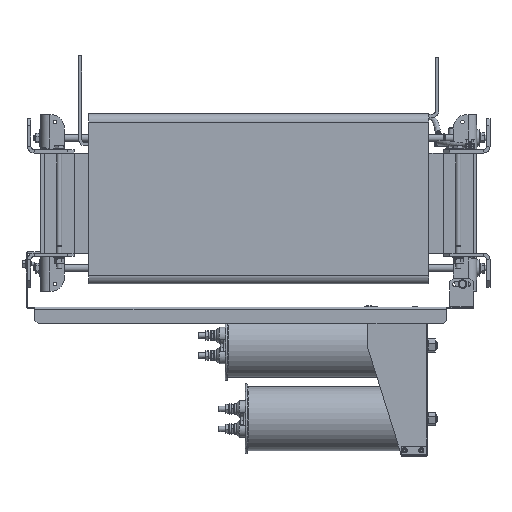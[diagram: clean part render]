
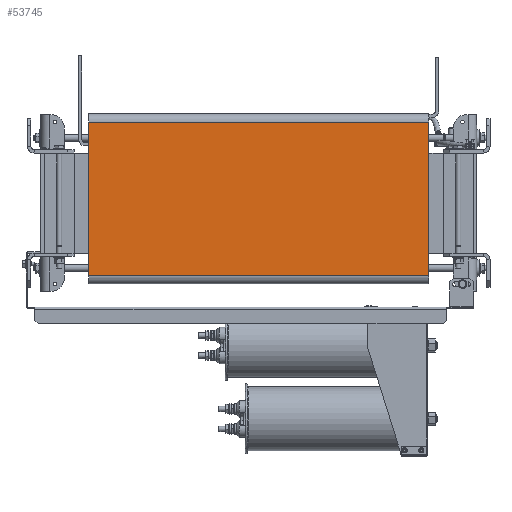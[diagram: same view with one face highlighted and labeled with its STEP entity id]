
A CAD part, left-side view. The second image highlights one B-rep face of the part: STEP entity #53745.
In plain terms, the highlighted planar face has unit normal (-1, 0, 0).
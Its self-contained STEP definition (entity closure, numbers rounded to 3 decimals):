
#2654=PLANE('',#58132);
#5091=FACE_OUTER_BOUND('',#8216,.T.);
#8216=EDGE_LOOP('',(#42240,#42241,#42242,#42243));
#12502=LINE('',#88161,#16963);
#12503=LINE('',#88167,#16964);
#12504=LINE('',#88168,#16965);
#12505=LINE('',#88169,#16966);
#16963=VECTOR('',#69088,10.);
#16964=VECTOR('',#69095,10.);
#16965=VECTOR('',#69096,10.);
#16966=VECTOR('',#69097,10.);
#24089=VERTEX_POINT('',#88159);
#24090=VERTEX_POINT('',#88160);
#24091=VERTEX_POINT('',#88165);
#24092=VERTEX_POINT('',#88166);
#30652=EDGE_CURVE('',#24089,#24090,#12502,.T.);
#30655=EDGE_CURVE('',#24091,#24092,#12503,.T.);
#30656=EDGE_CURVE('',#24089,#24091,#12504,.T.);
#30657=EDGE_CURVE('',#24092,#24090,#12505,.T.);
#42240=ORIENTED_EDGE('',*,*,#30655,.F.);
#42241=ORIENTED_EDGE('',*,*,#30656,.F.);
#42242=ORIENTED_EDGE('',*,*,#30652,.T.);
#42243=ORIENTED_EDGE('',*,*,#30657,.F.);
#53745=ADVANCED_FACE('',(#5091),#2654,.T.);
#58132=AXIS2_PLACEMENT_3D('',#88164,#69093,#69094);
#69088=DIRECTION('',(0.,-1.,0.));
#69093=DIRECTION('center_axis',(-1.,0.,0.));
#69094=DIRECTION('ref_axis',(0.,0.,1.));
#69095=DIRECTION('',(0.,-1.,0.));
#69096=DIRECTION('',(0.,0.,1.));
#69097=DIRECTION('',(0.,0.,-1.));
#88159=CARTESIAN_POINT('',(-203.828,255.,-108.562));
#88160=CARTESIAN_POINT('',(-203.828,-255.,-108.562));
#88161=CARTESIAN_POINT('',(-203.828,0.,-108.562));
#88164=CARTESIAN_POINT('Origin',(-203.828,0.,-108.562));
#88165=CARTESIAN_POINT('',(-203.828,255.,121.062));
#88166=CARTESIAN_POINT('',(-203.828,-255.,121.062));
#88167=CARTESIAN_POINT('',(-203.828,0.,121.062));
#88168=CARTESIAN_POINT('',(-203.828,255.,121.062));
#88169=CARTESIAN_POINT('',(-203.828,-255.,121.062));
